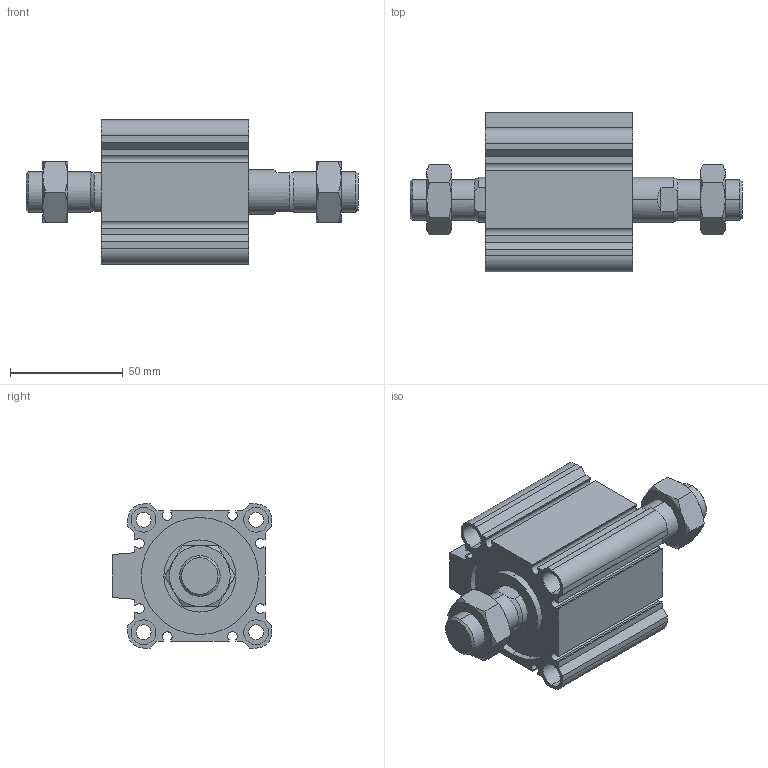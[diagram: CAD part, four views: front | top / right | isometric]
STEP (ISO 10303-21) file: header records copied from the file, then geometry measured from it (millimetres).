
FILE_DESCRIPTION (( 'STEP AP203' ), '1' );
FILE_NAME ('CCMB50-15M-P.STEP', '2020-08-10T11:42:02', ( '' ), ( '' ), 'SwSTEP 2.0', 'SolidWorks 2019', '' );
FILE_SCHEMA (( 'CONFIG_CONTROL_DESIGN' ));
Length unit declared in the file: millimetre
Products named in the file (1): CCMB50-15M-P
Bounding box: 147.5 x 71 x 64 mm (x, y, z)
Volume: 221897.8 mm3; surface area: 68999.7 mm2
Topology: 4 solids, 4 shells, 220 faces, 534 edges, 340 vertices
Faces by surface type: plane 98, cylinder 78, cone 44
Entity records: 7173 total; most frequent: CARTESIAN_POINT 1867, DIRECTION 1116, ORIENTED_EDGE 1068, EDGE_CURVE 534, AXIS2_PLACEMENT_3D 425, VERTEX_POINT 340, LINE 266, VECTOR 266
